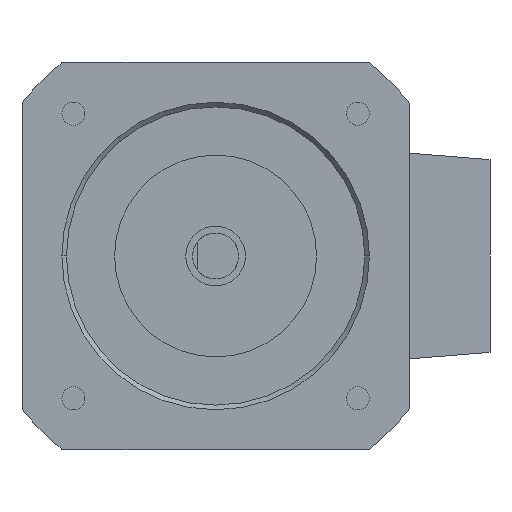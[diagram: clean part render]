
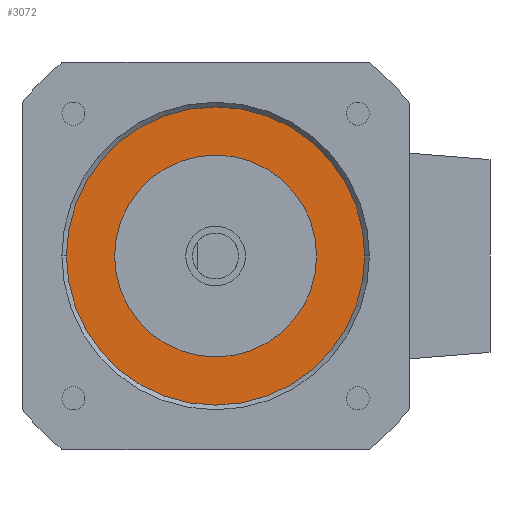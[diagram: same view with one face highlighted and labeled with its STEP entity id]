
A CAD part, front view. The second image highlights one B-rep face of the part: STEP entity #3072.
In plain terms, the highlighted planar face has unit normal (0, -1, 0).
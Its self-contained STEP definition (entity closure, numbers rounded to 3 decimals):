
#254 = CARTESIAN_POINT ( 'NONE',  ( 0., 2., 16.25 ) ) ;
#321 = DIRECTION ( 'NONE',  ( 0., -1., 0. ) ) ;
#346 = ORIENTED_EDGE ( 'NONE', *, *, #4910, .F. ) ;
#358 = CARTESIAN_POINT ( 'NONE',  ( 0., 2., -11. ) ) ;
#428 = CIRCLE ( 'NONE', #1976, 11. ) ;
#1008 = AXIS2_PLACEMENT_3D ( 'NONE', #18265, #16635, #9281 ) ;
#1931 = ORIENTED_EDGE ( 'NONE', *, *, #10480, .F. ) ;
#1976 = AXIS2_PLACEMENT_3D ( 'NONE', #14949, #13804, #10784 ) ;
#2188 = EDGE_LOOP ( 'NONE', ( #346, #1931 ) ) ;
#2213 = VERTEX_POINT ( 'NONE', #358 ) ;
#3072 = ADVANCED_FACE ( 'NONE', ( #17985, #12201 ), #18091, .T. ) ;
#4910 = EDGE_CURVE ( 'NONE', #2213, #11999, #428, .T. ) ;
#5530 = CARTESIAN_POINT ( 'NONE',  ( 0., 2., 11. ) ) ;
#5832 = DIRECTION ( 'NONE',  ( 0., 0., -1. ) ) ;
#5836 = DIRECTION ( 'NONE',  ( 0., -1., 0. ) ) ;
#6182 = EDGE_LOOP ( 'NONE', ( #8901, #11494 ) ) ;
#6798 = AXIS2_PLACEMENT_3D ( 'NONE', #18301, #321, #15405 ) ;
#8299 = CARTESIAN_POINT ( 'NONE',  ( 0., 2., -16.25 ) ) ;
#8901 = ORIENTED_EDGE ( 'NONE', *, *, #15113, .T. ) ;
#9281 = DIRECTION ( 'NONE',  ( 0., 0., -1. ) ) ;
#10480 = EDGE_CURVE ( 'NONE', #11999, #2213, #14442, .T. ) ;
#10784 = DIRECTION ( 'NONE',  ( 0., 0., -1. ) ) ;
#11063 = AXIS2_PLACEMENT_3D ( 'NONE', #15995, #13206, #5832 ) ;
#11494 = ORIENTED_EDGE ( 'NONE', *, *, #17598, .T. ) ;
#11562 = DIRECTION ( 'NONE',  ( 0., 0., -1. ) ) ;
#11999 = VERTEX_POINT ( 'NONE', #5530 ) ;
#12150 = AXIS2_PLACEMENT_3D ( 'NONE', #16202, #5836, #11562 ) ;
#12201 = FACE_BOUND ( 'NONE', #2188, .T. ) ;
#13155 = VERTEX_POINT ( 'NONE', #254 ) ;
#13206 = DIRECTION ( 'NONE',  ( 0., -1., 0. ) ) ;
#13804 = DIRECTION ( 'NONE',  ( 0., -1., 0. ) ) ;
#14313 = VERTEX_POINT ( 'NONE', #8299 ) ;
#14442 = CIRCLE ( 'NONE', #11063, 11. ) ;
#14949 = CARTESIAN_POINT ( 'NONE',  ( 0., 2., 0. ) ) ;
#15113 = EDGE_CURVE ( 'NONE', #14313, #13155, #17934, .T. ) ;
#15405 = DIRECTION ( 'NONE',  ( 0., 0., -1. ) ) ;
#15537 = CIRCLE ( 'NONE', #12150, 16.25 ) ;
#15995 = CARTESIAN_POINT ( 'NONE',  ( 0., 2., 0. ) ) ;
#16202 = CARTESIAN_POINT ( 'NONE',  ( 0., 2., 0. ) ) ;
#16635 = DIRECTION ( 'NONE',  ( 0., -1., 0. ) ) ;
#17598 = EDGE_CURVE ( 'NONE', #13155, #14313, #15537, .T. ) ;
#17934 = CIRCLE ( 'NONE', #6798, 16.25 ) ;
#17985 = FACE_OUTER_BOUND ( 'NONE', #6182, .T. ) ;
#18091 = PLANE ( 'NONE',  #1008 ) ;
#18265 = CARTESIAN_POINT ( 'NONE',  ( 0., 2., 0. ) ) ;
#18301 = CARTESIAN_POINT ( 'NONE',  ( 0., 2., 0. ) ) ;
